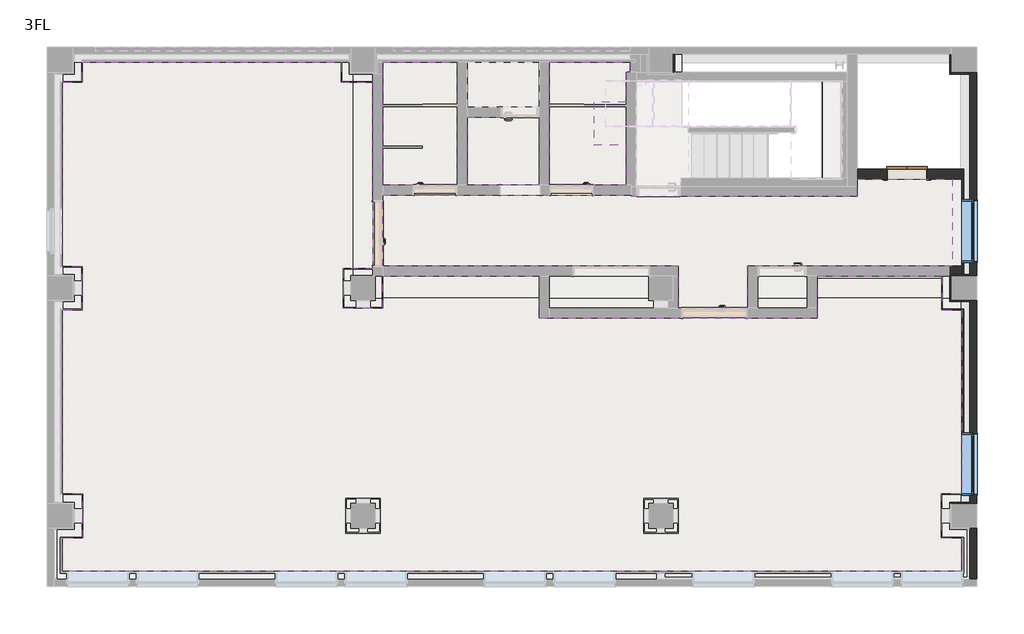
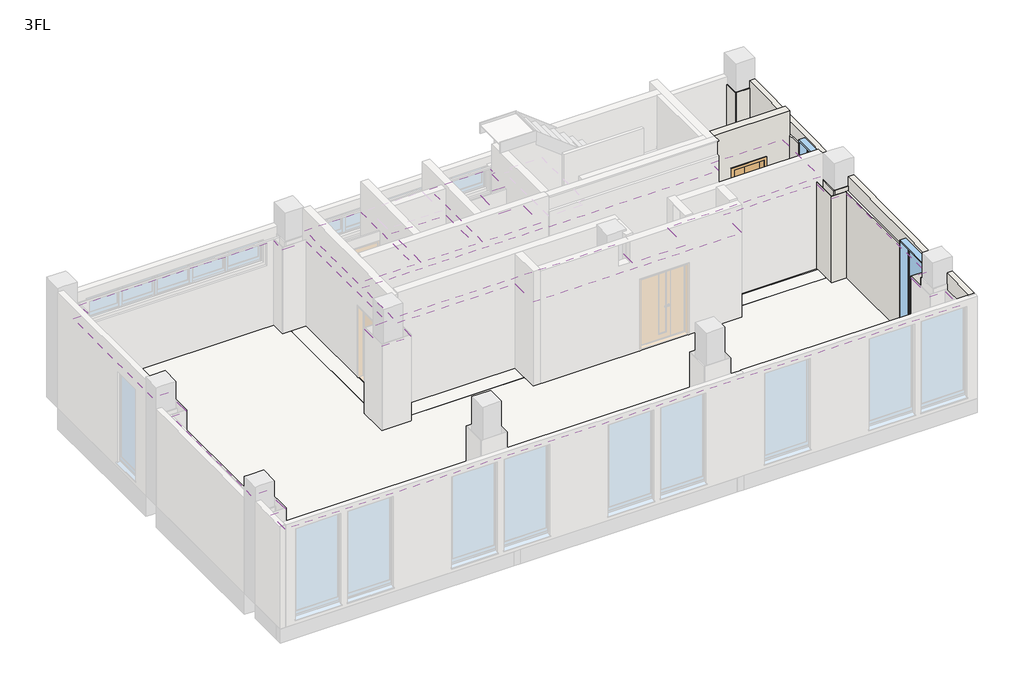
# One storey, part 3 of 4: 16 walls, 10 slabs, 6 coverings, 2 windows, 1 door.
"""IFC4 building model written with IfcOpenShell, lengths in millimetres."""

from ifc_helpers import new_model, si_unit, frame, origin, place, context, project, spatial, polyline, outline, extrude, faceted_brep, transform, mapped, element, save
from components import covering_536f3d13, elv_h2000xw800_aa5de070, window_02fdaeb4

model = new_model("IFC4")

# Units and contexts
model_context = context("Model", 3, world=origin())
ifc_project = project(units=[si_unit("LENGTHUNIT", "METRE", prefix="MILLI")], contexts=[model_context])

# Site, building, storey
site = spatial("IfcSite", under=ifc_project)
building = spatial("IfcBuilding", under=site)
storey = spatial("IfcBuildingStorey", under=building, Name="3FL", Elevation=6700.0)

# Coverings
placement = place(None, origin())
element("IfcCovering", 1, ObjectType="t=4mm", at=placement, inside=storey, context=model_context, shape_type="SweptSolid", body=[
    extrude(outline(polyline([(18147.5000006, -442.5001201), (18147.5000006, -1117.5000822), (32.4998768, -1117.5000822), (32.4998768, -442.4999706), (448.5, -442.4999706), (448.5, 442.4996399), (32.5, 442.4996399), (32.5, 4151.5), (438.5, 4151.5), (438.5, 5028.5), (32.4999974, 5028.5), (32.4999974, 8741.5), (438.5, 8741.5), (438.5, 9147.500003), (5651.5, 9147.500003), (5651.5, 8741.5), (6290.0, 8741.5), (6290.0, 4988.5), (5687.4999426, 4988.5), (5687.4999426, 4187.5000823), (6489.9999994, 4187.5000823), (6489.9999994, 4830.0), (9640.0, 4830.0), (9640.0, 3990.0), (15240.0, 3990.0), (15240.0, 4830.0), (17741.5, 4830.0), (17741.5, 4151.5), (18147.4999993, 4151.5), (18147.4999993, 442.499689), (17731.5010313, 442.499689), (17731.5010313, -442.5001201), (18147.5000006, -442.5001201)]), holes=[polyline([(6440.0, -350.0), (6440.0, 350.0), (5740.0, 350.0), (5740.0, -350.0), (6440.0, -350.0)]), polyline([(12438.5, -348.5), (12438.5, 348.5), (11741.5, 348.5), (11741.5, -348.5), (12438.5, -348.5)])]), frame((0.0, 0.0, 9100.0), z_axis=(0.0, 0.0, 1.0), x_axis=(1.0, 0.0, 0.0)), (0.0, 0.0, 1.0), 4.0),
])
element("IfcCovering", 2, ObjectType="t=4mm", at=placement, inside=storey, context=model_context, shape_type="SweptSolid", body=[
    extrude(outline(polyline([(6490.0, 6465.5), (11490.0, 6465.5), (11490.0, 6440.0), (16040.0, 6440.0), (16040.0, 6790.0), (17955.0, 6790.0), (17955.0, 5030.0), (13840.0, 5030.0), (13840.0, 4190.0), (12440.0, 4190.0), (12440.0, 5030.0), (6490.0, 5030.0), (6490.0, 6465.5)])), frame((0.0, 0.0, 9100.0), z_axis=(0.0, 0.0, 1.0), x_axis=(1.0, 0.0, 0.0)), (0.0, 0.0, 1.0), 4.0),
])
element("IfcCovering", 3, ObjectType="t=4mm", at=placement, inside=storey, context=model_context, shape_type="SweptSolid", body=[
    extrude(outline(polyline([(7990.0, 9147.500003), (7990.0, 6665.5), (6490.0, 6665.5), (6490.0, 9147.500003), (7990.0, 9147.500003)])), frame((0.0, 0.0, 9100.0), z_axis=(0.0, 0.0, 1.0), x_axis=(1.0, 0.0, 0.0)), (0.0, 0.0, 1.0), 4.0),
])
element("IfcCovering", 4, ObjectType="t=4mm", at=placement, inside=storey, context=model_context, shape_type="SweptSolid", body=[
    extrude(outline(polyline([(9640.0, 6665.5), (8190.0, 6665.5), (8190.0, 8040.0), (9640.0, 8040.0), (9640.0, 6665.5)])), frame((0.0, 0.0, 9100.0), z_axis=(0.0, 0.0, 1.0), x_axis=(1.0, 0.0, 0.0)), (0.0, 0.0, 1.0), 4.0),
])
element("IfcCovering", 5, ObjectType="t=4mm", at=placement, inside=storey, context=model_context, shape_type="SweptSolid", body=[
    extrude(outline(polyline([(11470.0, 9147.500003), (11470.0, 8947.5), (11390.0, 8947.5), (11390.0, 8342.5), (10732.5, 8342.5), (10732.5, 7482.5), (11390.0, 7482.5), (11390.0, 6665.5), (9840.0, 6665.5), (9840.0, 9147.500003), (11470.0, 9147.500003)])), frame((0.0, 0.0, 9100.0), z_axis=(0.0, 0.0, 1.0), x_axis=(1.0, 0.0, 0.0)), (0.0, 0.0, 1.0), 4.0),
])
covering_shape = covering_536f3d13(model_context)
element("IfcCovering", 6, ObjectType="天井 3 : 天井 1", at=placement, inside=storey, context=model_context, shape_type="MappedRepresentation", body=[
    mapped(covering_shape, transform((0.0, 0.0, 6685.7142857), x_axis=(1.0, 0.0, 0.0), y_axis=(0.0, 1.0, 0.0), z_axis=(0.0, 0.0, 1.0))),
])

# Door
elv_h2000xw800_shape = elv_h2000xw800_aa5de070(model_context)
element("IfcDoor", 7, ObjectType="D_EV_壁付 : ELV_H2000xW800", at=placement, inside=storey, context=model_context, shape_type="MappedRepresentation", body=[
    mapped(elv_h2000xw800_shape, transform((17145.4856443, 6890.0, 6700.0), x_axis=(1.0, 0.0, 0.0), y_axis=(0.0, 1.0, 0.0), z_axis=(0.0, 0.0, 1.0))),
])

# Slabs
element("IfcSlab", 8, ObjectType="OAフロアの上タイルカーペット", at=placement, inside=storey, context=model_context, shape_type="Brep", body=[
    faceted_brep([(438.5, 9147.500003, 6650.0), (5651.5, 9147.500003, 6650.0), (5651.5, 8741.5, 6650.0), (5890.0, 8741.5, 6650.0), (5890.0, 4988.5, 6650.0), (5687.4999426, 4988.5, 6650.0), (5687.4999426, 4187.5000823, 6650.0), (6489.9999994, 4187.5000823, 6650.0), (6489.9999994, 4390.0, 6650.0), (9640.0, 4390.0, 6650.0), (9640.0, 3990.0, 6650.0), (15240.0, 3990.0, 6650.0), (15240.0, 4390.0, 6650.0), (17741.5, 4390.0, 6650.0), (17741.5, 4151.5, 6650.0), (18147.4999993, 4151.5, 6650.0), (18147.4999993, 442.499689, 6650.0), (17731.5010313, 442.499689, 6650.0), (17731.5010313, -442.5001201, 6650.0), (18147.5000006, -442.5001201, 6650.0), (18147.5000006, -1117.5000822, 6650.0), (32.4999974, -1117.5000822, 6650.0), (32.4999974, -442.4999706, 6650.0), (448.5, -442.4999706, 6650.0), (448.5, 442.4996399, 6650.0), (32.4999974, 442.4996399, 6650.0), (32.4999974, 4151.5, 6650.0), (438.5, 4151.5, 6650.0), (438.5, 5028.5, 6650.0), (32.4999974, 5028.5, 6650.0), (32.4999974, 8741.5, 6650.0), (438.5, 8741.5, 6650.0), (5740.0, 350.0, 6650.0), (5740.0, -350.0, 6650.0), (6440.0, -350.0, 6650.0), (6440.0, 350.0, 6650.0), (11741.5, 348.5, 6650.0), (11741.5, -348.5, 6650.0), (12438.5, -348.5, 6650.0), (12438.5, 348.5, 6650.0), (5651.5, 9147.500003, 6700.0), (438.5, 9147.500003, 6700.0), (438.5, 8741.5, 6700.0), (32.4999974, 8741.5, 6700.0), (32.4999974, 5028.5, 6700.0), (438.5, 5028.5, 6700.0), (438.5, 4151.5, 6700.0), (32.4999974, 4151.5, 6700.0), (32.4999974, 442.4996399, 6700.0), (448.5, 442.4996399, 6700.0), (448.5, -442.4999706, 6700.0), (32.4999974, -442.4999706, 6700.0), (32.4999974, -1117.5000822, 6700.0), (18147.5000006, -1117.5000822, 6700.0), (18147.5000006, -442.5001201, 6700.0), (17731.5010313, -442.5001201, 6700.0), (17731.5010313, 442.499689, 6700.0), (18147.4999993, 442.499689, 6700.0), (18147.4999993, 4151.5, 6700.0), (17741.5, 4151.5, 6700.0), (17741.5, 4390.0, 6700.0), (15240.0, 4390.0, 6700.0), (15240.0, 3990.0, 6700.0), (9640.0, 3990.0, 6700.0), (9640.0, 4390.0, 6700.0), (6489.9999994, 4390.0, 6700.0), (6489.9999994, 4187.5000823, 6700.0), (5687.4999426, 4187.5000823, 6700.0), (5687.4999426, 4988.5, 6700.0), (5890.0, 4988.5, 6700.0), (5890.0, 8741.5, 6700.0), (5651.5, 8741.5, 6700.0), (5740.0, -350.0, 6700.0), (5740.0, 350.0, 6700.0), (6440.0, 350.0, 6700.0), (6440.0, -350.0, 6700.0), (11741.5, -348.5, 6700.0), (11741.5, 348.5, 6700.0), (12438.5, 348.5, 6700.0), (12438.5, -348.5, 6700.0), (5890.0, 8741.5, 6690.0), (5890.0, 4988.5, 6690.0), (6489.9999994, 4390.0, 6690.0), (9640.0, 4390.0, 6690.0), (15240.0, 4390.0, 6690.0), (17741.5, 4390.0, 6690.0)], [[[0, 1, 2, 3, 4, 5, 6, 7, 8, 9, 10, 11, 12, 13, 14, 15, 16, 17, 18, 19, 20, 21, 22, 23, 24, 25, 26, 27, 28, 29, 30, 31], [32, 33, 34, 35], [36, 37, 38, 39]], [[40, 41, 42, 43, 44, 45, 46, 47, 48, 49, 50, 51, 52, 53, 54, 55, 56, 57, 58, 59, 60, 61, 62, 63, 64, 65, 66, 67, 68, 69, 70, 71], [72, 73, 74, 75], [76, 77, 78, 79]], [[1, 0, 41, 40]], [[2, 1, 40, 71]], [[3, 2, 71, 70, 80]], [[4, 3, 80, 70, 69, 81]], [[5, 4, 81, 69, 68]], [[6, 5, 68, 67]], [[7, 6, 67, 66]], [[8, 7, 66, 65, 82]], [[9, 8, 82, 65, 64, 83]], [[10, 9, 83, 64, 63]], [[11, 10, 63, 62]], [[12, 11, 62, 61, 84]], [[13, 12, 84, 61, 60, 85]], [[21, 20, 53, 52]], [[30, 29, 44, 43]], [[16, 15, 58, 57]], [[22, 21, 52, 51]], [[23, 22, 51, 50]], [[24, 23, 50, 49]], [[25, 24, 49, 48]], [[26, 25, 48, 47]], [[27, 26, 47, 46]], [[28, 27, 46, 45]], [[29, 28, 45, 44]], [[31, 30, 43, 42]], [[0, 31, 42, 41]], [[14, 13, 85, 60, 59]], [[15, 14, 59, 58]], [[17, 16, 57, 56]], [[18, 17, 56, 55]], [[19, 18, 55, 54]], [[20, 19, 54, 53]], [[33, 32, 73, 72]], [[34, 33, 72, 75]], [[35, 34, 75, 74]], [[32, 35, 74, 73]], [[37, 36, 77, 76]], [[38, 37, 76, 79]], [[39, 38, 79, 78]], [[36, 39, 78, 77]]]),
])
element("IfcSlab", 9, ObjectType="タイルカーペット t=10mm", at=placement, inside=storey, context=model_context, shape_type="SweptSolid", body=[
    extrude(outline(polyline([(9640.0, 4390.0), (6489.9999994, 4390.0), (6489.9999994, 4830.0), (9640.0, 4830.0), (9640.0, 4390.0)])), frame((0.0, 0.0, 6690.0), z_axis=(0.0, 0.0, 1.0), x_axis=(1.0, 0.0, 0.0)), (0.0, 0.0, 1.0), 10.0),
    extrude(outline(polyline([(17741.5, 4390.0), (15240.0, 4390.0), (15240.0, 4782.5), (17741.5, 4782.5), (17741.5, 4390.0)])), frame((0.0, 0.0, 6690.0), z_axis=(0.0, 0.0, 1.0), x_axis=(1.0, 0.0, 0.0)), (0.0, 0.0, 1.0), 10.0),
])
element("IfcSlab", 10, ObjectType="ビニル床ビシート t=10mm", at=placement, inside=storey, context=model_context, shape_type="Brep", body=[
    faceted_brep([(13840.0, 5030.0, 6690.0), (13840.0, 4190.0, 6690.0), (12440.0, 4190.0, 6690.0), (12440.0, 5030.0, 6690.0), (6490.0, 5030.0, 6690.0), (6490.0, 6465.5, 6690.0), (9875.0, 6465.5, 6690.0), (10705.0, 6465.5, 6690.0), (11490.0, 6465.5, 6690.0), (11490.0, 6440.0, 6690.0), (12512.5, 6440.0, 6690.0), (16040.0, 6440.0, 6690.0), (16040.0, 6790.0, 6690.0), (18147.5, 6790.0, 6690.0), (18147.5, 5030.0, 6690.0), (13840.0, 4190.0, 6700.0), (13840.0, 5030.0, 6700.0), (18147.5, 5030.0, 6700.0), (18147.5, 6790.0, 6700.0), (16040.0, 6790.0, 6700.0), (16040.0, 6440.0, 6700.0), (12467.5, 6440.0, 6700.0), (11612.5, 6440.0, 6700.0), (11490.0, 6440.0, 6700.0), (11490.0, 6465.5, 6700.0), (10705.0, 6465.5, 6700.0), (9875.0, 6465.5, 6700.0), (6490.0, 6465.5, 6700.0), (6490.0, 5030.0, 6700.0), (12440.0, 5030.0, 6700.0), (12440.0, 4190.0, 6700.0)], [[[0, 1, 2, 3, 4, 5, 6, 7, 8, 9, 10, 11, 12, 13, 14]], [[15, 16, 17, 18, 19, 20, 21, 22, 23, 24, 25, 26, 27, 28, 29, 30]], [[1, 0, 16, 15]], [[2, 1, 15, 30]], [[3, 2, 30, 29]], [[4, 3, 29, 28]], [[5, 4, 28, 27]], [[5, 27, 26, 25, 24, 8, 7, 6]], [[19, 12, 11, 20]], [[13, 12, 19, 18]], [[14, 13, 18, 17]], [[0, 14, 17, 16]], [[9, 23, 22, 21, 20, 11, 10]], [[23, 9, 8, 24]]]),
])
element("IfcSlab", 11, ObjectType="ビニル床ビシート t=10mm", at=placement, inside=storey, context=model_context, shape_type="SweptSolid", body=[
    extrude(outline(polyline([(11390.0, 6665.5), (10705.0, 6665.5), (10705.0, 6465.5), (9875.0, 6465.5), (9875.0, 6675.5), (9840.0, 6675.5), (9840.0, 9130.0), (11470.0, 9130.0), (11470.0, 8947.5), (11390.0, 8947.5), (11390.0, 6665.5)])), frame((0.0, 0.0, 6690.0), z_axis=(0.0, 0.0, 1.0), x_axis=(1.0, 0.0, 0.0)), (0.0, 0.0, 1.0), 10.0),
])
element("IfcSlab", 12, ObjectType="ビニル床ビシート t=10mm", at=placement, inside=storey, context=model_context, shape_type="Brep", body=[
    faceted_brep([(9640.0, 6665.5, 6690.0), (8190.0, 6665.5, 6690.0), (8190.0, 8040.0, 6690.0), (9640.0, 8040.0, 6690.0), (8190.0, 6665.5, 6700.0), (9640.0, 6665.5, 6700.0), (9640.0, 8040.0, 6700.0), (9617.5, 8040.0, 6700.0), (8862.5, 8040.0, 6700.0), (8190.0, 8040.0, 6700.0)], [[[0, 1, 2, 3]], [[4, 5, 6, 7, 8, 9]], [[1, 0, 5, 4]], [[1, 4, 9, 2]], [[5, 0, 3, 6]], [[3, 2, 9, 8, 7, 6]]]),
    faceted_brep([(8190.0, 9130.0, 6690.0), (9640.0, 9130.0, 6690.0), (9640.0, 8240.0, 6690.0), (8190.0, 8240.0, 6690.0), (9640.0, 9130.0, 6700.0), (8190.0, 9130.0, 6700.0), (8190.0, 8240.0, 6700.0), (8862.5, 8240.0, 6700.0), (9617.5, 8240.0, 6700.0), (9640.0, 8240.0, 6700.0)], [[[0, 1, 2, 3]], [[4, 5, 6, 7, 8, 9]], [[5, 0, 3, 6]], [[1, 0, 5, 4]], [[1, 4, 9, 2]], [[3, 2, 9, 8, 7, 6]]]),
])
element("IfcSlab", 13, ObjectType="ビニル床ビシート t=10mm", at=placement, inside=storey, context=model_context, shape_type="SweptSolid", body=[
    extrude(outline(polyline([(7990.0, 6665.5), (6490.0, 6665.5), (6490.0, 9130.0), (7990.0, 9130.0), (7990.0, 6665.5)])), frame((0.0, 0.0, 6690.0), z_axis=(0.0, 0.0, 1.0), x_axis=(1.0, 0.0, 0.0)), (0.0, 0.0, 1.0), 10.0),
])
element("IfcSlab", 14, ObjectType="タイルカーペット t=10mm", at=placement, inside=storey, context=model_context, shape_type="SweptSolid", body=[
    extrude(outline(polyline([(5890.0, 4988.5), (5890.0, 8741.5), (6290.0, 8741.5), (6290.0, 4988.5), (5890.0, 4988.5)])), frame((0.0, 0.0, 6690.0), z_axis=(0.0, 0.0, 1.0), x_axis=(1.0, 0.0, 0.0)), (0.0, 0.0, 1.0), 10.0),
])
element("IfcSlab", 15, ObjectType="DS1t150", at=placement, inside=storey, context=model_context, shape_type="SweptSolid", body=[
    extrude(outline(polyline([(-70.0, -1275.0), (-70.0, -250.0), (250.0, -250.0), (250.0, -150.0), (5840.0, -150.0), (5840.0, -250.0), (6000.0, -250.0), (6000.0, -1275.0), (-70.0, -1275.0)])), frame((0.0, 0.0, 6400.0), z_axis=(0.0, 0.0, 1.0), x_axis=(1.0, 0.0, 0.0)), (0.0, 0.0, 1.0), 150.0),
    extrude(outline(polyline([(12340.0, -150.0), (17930.0, -150.0), (17930.0, -250.0), (18250.0, -250.0), (18250.0, -1230.0), (12180.0, -1230.0), (12180.0, -250.0), (12340.0, -250.0), (12340.0, -150.0)])), frame((0.0, 0.0, 6400.0), z_axis=(0.0, 0.0, 1.0), x_axis=(1.0, 0.0, 0.0)), (0.0, 0.0, 1.0), 150.0),
    extrude(outline(polyline([(12000.0, -1275.0), (6180.0, -1275.0), (6180.0, -250.0), (6340.0, -250.0), (6340.0, -150.0), (11840.0, -150.0), (11840.0, -250.0), (12000.0, -250.0), (12000.0, -1275.0)])), frame((0.0, 0.0, 6400.0), z_axis=(0.0, 0.0, 1.0), x_axis=(1.0, 0.0, 0.0)), (0.0, 0.0, 1.0), 150.0),
])
element("IfcSlab", 16, ObjectType="DS1t150", at=placement, inside=storey, context=model_context, shape_type="Brep", body=[
    faceted_brep([(50.0, 4840.0, 6400.0), (50.0, 8930.0, 6400.0), (250.0, 8930.0, 6400.0), (250.0, 9130.0, 6400.0), (5840.0, 9130.0, 6400.0), (5840.0, 8930.0, 6400.0), (5940.0, 8930.0, 6400.0), (5940.0, 4840.0000077, 6400.0), (5840.0, 4840.0000077, 6400.0), (5840.0, 4740.0, 6400.0), (250.0, 4740.0, 6400.0), (250.0, 4840.0, 6400.0), (50.0, 8930.0, 6550.0), (50.0, 4840.0, 6550.0), (250.0, 4840.0, 6550.0), (250.0, 4740.0, 6550.0), (5840.0, 4740.0, 6550.0), (5840.0, 4840.0000077, 6550.0), (5940.0, 4840.0000077, 6550.0), (5940.0, 8930.0, 6550.0), (5890.0, 8930.0, 6550.0), (5840.0, 8930.0, 6550.0), (5840.0, 9130.0, 6550.0), (250.0, 9130.0, 6550.0), (250.0, 8930.0, 6550.0)], [[[0, 1, 2, 3, 4, 5, 6, 7, 8, 9, 10, 11]], [[12, 13, 14, 15, 16, 17, 18, 19, 20, 21, 22, 23, 24]], [[1, 0, 13, 12]], [[4, 3, 23, 22]], [[7, 6, 19, 18]], [[10, 9, 16, 15]], [[2, 1, 12, 24]], [[3, 2, 24, 23]], [[5, 4, 22, 21]], [[6, 5, 21, 20, 19]], [[8, 7, 18, 17]], [[9, 8, 17, 16]], [[11, 10, 15, 14]], [[0, 11, 14, 13]]]),
    faceted_brep([(5840.0, 4440.0, 6400.0), (5840.0, 4339.9999923, 6400.0), (5940.0, 4339.9999923, 6400.0), (5940.0, 250.0, 6400.0), (5840.0, 250.0, 6400.0), (5840.0, 150.0, 6400.0), (250.0, 150.0, 6400.0), (250.0, 250.0, 6400.0), (50.0, 250.0, 6400.0), (50.0, 4340.0, 6400.0), (250.0, 4340.0, 6400.0), (250.0, 4440.0, 6400.0), (5840.0, 4339.9999923, 6550.0), (5840.0, 4440.0, 6550.0), (250.0, 4440.0, 6550.0), (250.0, 4340.0, 6550.0), (50.0, 4340.0, 6550.0), (50.0, 250.0, 6550.0), (250.0, 250.0, 6550.0), (250.0, 150.0, 6550.0), (5840.0, 150.0, 6550.0), (5840.0, 250.0, 6550.0), (5940.0, 250.0, 6550.0), (5940.0, 4339.9999923, 6550.0)], [[[0, 1, 2, 3, 4, 5, 6, 7, 8, 9, 10, 11]], [[12, 13, 14, 15, 16, 17, 18, 19, 20, 21, 22, 23]], [[1, 0, 13, 12]], [[2, 1, 12, 23]], [[3, 2, 23, 22]], [[6, 5, 20, 19]], [[9, 8, 17, 16]], [[0, 11, 14, 13]], [[4, 3, 22, 21]], [[5, 4, 21, 20]], [[7, 6, 19, 18]], [[8, 7, 18, 17]], [[10, 9, 16, 15]], [[11, 10, 15, 14]]]),
    faceted_brep([(11840.0, 150.0, 6400.0), (6340.0, 150.0, 6400.0), (6340.0, 250.0, 6400.0), (6240.0, 250.0, 6400.0), (6240.0, 4339.9999923, 6400.0), (6340.0, 4339.9999923, 6400.0), (6340.0, 4440.0, 6400.0), (9640.0, 4440.0, 6400.0), (9840.0, 4440.0, 6400.0), (11840.0, 4440.0, 6400.0), (11840.0, 4340.0, 6400.0), (11940.0, 4340.0, 6400.0), (11940.0, 4190.0, 6400.0), (11940.0, 3990.0, 6400.0), (11940.0, 250.0, 6400.0), (11840.0, 250.0, 6400.0), (6340.0, 150.0, 6550.0), (11840.0, 150.0, 6550.0), (11840.0, 250.0, 6550.0), (11940.0, 250.0, 6550.0), (11940.0, 4340.0, 6550.0), (11840.0, 4340.0, 6550.0), (11840.0, 4390.0, 6550.0), (11840.0, 4440.0, 6550.0), (6340.0, 4440.0, 6550.0), (6340.0, 4390.0, 6550.0), (6340.0, 4339.9999923, 6550.0), (6240.0, 4339.9999923, 6550.0), (6240.0, 250.0, 6550.0), (6340.0, 250.0, 6550.0)], [[[0, 1, 2, 3, 4, 5, 6, 7, 8, 9, 10, 11, 12, 13, 14, 15]], [[16, 17, 18, 19, 20, 21, 22, 23, 24, 25, 26, 27, 28, 29]], [[1, 0, 17, 16]], [[4, 3, 28, 27]], [[9, 8, 7, 6, 24, 23]], [[14, 13, 12, 11, 20, 19]], [[15, 14, 19, 18]], [[0, 15, 18, 17]], [[2, 1, 16, 29]], [[3, 2, 29, 28]], [[5, 4, 27, 26]], [[6, 5, 26, 25, 24]], [[10, 9, 23, 22, 21]], [[11, 10, 21, 20]]]),
    faceted_brep([(12340.0, 4440.0, 6400.0), (12440.0, 4440.0, 6400.0), (13840.0, 4440.0, 6400.0), (14040.0, 4440.0, 6400.0), (15040.0, 4440.0, 6400.0), (15240.0, 4440.0, 6400.0), (17930.0, 4440.0, 6400.0), (17930.0, 4340.0, 6400.0), (18125.0, 4340.0, 6400.0), (18125.0, 250.0, 6400.0), (17930.0, 250.0, 6400.0), (17930.0, 150.0, 6400.0), (12340.0, 150.0, 6400.0), (12340.0, 250.0, 6400.0), (12240.0, 250.0, 6400.0), (12240.0, 3990.0, 6400.0), (12240.0, 4190.0, 6400.0), (12240.0, 4340.0, 6400.0), (12340.0, 4340.0, 6400.0), (17930.0, 4440.0, 6550.0), (12340.0, 4440.0, 6550.0), (12340.0, 4390.0, 6550.0), (12340.0, 4340.0, 6550.0), (12240.0, 4340.0, 6550.0), (12240.0, 250.0, 6550.0), (12340.0, 250.0, 6550.0), (12340.0, 150.0, 6550.0), (17930.0, 150.0, 6550.0), (17930.0, 250.0, 6550.0), (18125.0, 250.0, 6550.0), (18125.0, 4340.0, 6550.0), (17930.0, 4340.0, 6550.0), (17930.0, 4390.0, 6550.0)], [[[0, 1, 2, 3, 4, 5, 6, 7, 8, 9, 10, 11, 12, 13, 14, 15, 16, 17, 18]], [[19, 20, 21, 22, 23, 24, 25, 26, 27, 28, 29, 30, 31, 32]], [[6, 5, 4, 3, 2, 1, 0, 20, 19]], [[9, 8, 30, 29]], [[12, 11, 27, 26]], [[17, 16, 15, 14, 24, 23]], [[13, 12, 26, 25]], [[14, 13, 25, 24]], [[18, 17, 23, 22]], [[0, 18, 22, 21, 20]], [[7, 6, 19, 32, 31]], [[8, 7, 31, 30]], [[10, 9, 29, 28]], [[11, 10, 28, 27]]]),
])
element("IfcSlab", 17, ObjectType="DS1t150", at=placement, inside=storey, context=model_context, shape_type="Brep", body=[
    faceted_brep([(12364.9999035, 9305.0, 6540.0), (12512.5, 9305.0, 6540.0), (12512.5, 7716.0, 6540.0), (12732.5, 7716.0, 6540.0), (12732.5, 6804.5, 6540.0), (12512.5, 6804.5, 6540.0), (12512.5, 6640.0, 6540.0), (12512.5, 6440.0, 6540.0), (16040.0, 6440.0, 6540.0), (16040.0, 6990.0, 6540.0), (18130.0, 6990.0, 6540.0), (18130.0, 4840.0, 6540.0), (17930.0, 4840.0, 6540.0), (17930.0, 4740.0, 6540.0), (12340.0, 4740.0, 6540.0), (12340.0, 4830.0, 6540.0), (12340.0, 4840.0, 6540.0), (12240.0, 4840.0, 6540.0), (12240.0, 6440.0, 6540.0), (12240.0, 6640.0, 6540.0), (12240.0, 8930.0, 6540.0), (12364.9999035, 8930.0, 6540.0), (11840.0, 4740.0, 6540.0), (6340.0, 4740.0, 6540.0), (6340.0, 4830.0, 6540.0), (6340.0, 4840.0, 6540.0), (6290.0, 4840.0, 6540.0), (6240.0, 4840.0, 6540.0), (6240.0, 8930.0, 6540.0), (6340.0, 8930.0, 6540.0), (6340.0, 9130.0, 6540.0), (7990.0, 9130.0, 6540.0), (8190.0, 9130.0, 6540.0), (9640.0, 9130.0, 6540.0), (9840.0, 9130.0, 6540.0), (11840.0, 9130.0, 6540.0), (11840.0, 8930.0, 6540.0), (11940.0, 8930.0, 6540.0), (11940.0, 6640.0, 6540.0), (11940.0, 6440.0, 6540.0), (11940.0, 4840.0, 6540.0), (11840.0, 4840.0, 6540.0), (11840.0, 4830.0, 6540.0), (12512.5, 9305.0, 6690.0), (12364.9999035, 9305.0, 6690.0), (12364.9999035, 8947.5, 6690.0), (12364.9999035, 8930.0, 6690.0), (12360.0, 8930.0, 6690.0), (11840.0, 8930.0, 6690.0), (11840.0, 8947.5, 6690.0), (11840.0, 9130.0, 6690.0), (11814.9999426, 9130.0, 6690.0), (11670.0, 9130.0, 6690.0), (11470.0, 9130.0, 6690.0), (9840.0, 9130.0, 6690.0), (9640.0, 9130.0, 6690.0), (8190.0, 9130.0, 6690.0), (7990.0, 9130.0, 6690.0), (6490.0, 9130.0, 6690.0), (6365.0, 9130.0, 6690.0), (6340.0, 9130.0, 6690.0), (6340.0, 8930.0, 6690.0), (5890.0, 8930.0, 6690.0), (5890.0, 8905.0000823, 6690.0), (5890.0, 8754.0, 6690.0), (5890.0, 8741.5, 6690.0), (5890.0, 4988.5, 6690.0), (5890.0, 4976.0, 6690.0), (5890.0, 4840.0, 6690.0), (6290.0, 4840.0, 6690.0), (6340.0, 4840.0, 6690.0), (6340.0, 4830.0, 6690.0), (6340.0, 4390.0, 6690.0), (6477.4999994, 4390.0, 6690.0), (6489.9999994, 4390.0, 6690.0), (9640.0, 4390.0, 6690.0), (9840.0, 4390.0, 6690.0), (11840.0, 4390.0, 6690.0), (11840.0, 4830.0, 6690.0), (11840.0, 4840.0, 6690.0), (12340.0, 4840.0, 6690.0), (12340.0, 4830.0, 6690.0), (12340.0, 4390.0, 6690.0), (12440.0, 4390.0, 6690.0), (13840.0, 4390.0, 6690.0), (14040.0, 4390.0, 6690.0), (15040.0, 4390.0, 6690.0), (15240.0, 4390.0, 6690.0), (17741.5, 4390.0, 6690.0), (17754.0, 4390.0, 6690.0), (17905.0000284, 4390.0, 6690.0), (17930.0, 4390.0, 6690.0), (17930.0, 4840.0, 6690.0), (18130.0, 4840.0, 6690.0), (18130.0, 4865.0, 6690.0), (18130.0, 5030.0, 6690.0), (18130.0, 6790.0, 6690.0), (18130.0, 6990.0, 6690.0), (16040.0, 6990.0, 6690.0), (16040.0, 6790.0, 6690.0), (16040.0, 6440.0, 6690.0), (12512.5, 6440.0, 6690.0), (12512.5, 6640.0, 6690.0), (12512.5, 6804.5, 6690.0), (12732.5, 6804.5, 6690.0), (12732.5, 7716.0, 6690.0), (12512.5, 7716.0, 6690.0), (12512.5, 8747.5, 6690.0), (12512.5, 8947.5, 6690.0), (12364.9999035, 9305.0, 6550.0), (12512.5, 6440.0, 6550.0), (16040.0, 6440.0, 6550.0), (18130.0, 6990.0, 6550.0), (12340.0, 4390.0, 6550.0), (12440.0, 4390.0, 6550.0), (13840.0, 4390.0, 6550.0), (14040.0, 4390.0, 6550.0), (15040.0, 4390.0, 6550.0), (15240.0, 4390.0, 6550.0), (17741.5, 4390.0, 6550.0), (17754.0, 4390.0, 6550.0), (17905.0000284, 4390.0, 6550.0), (17930.0, 4390.0, 6550.0), (5890.0, 8930.0, 6550.0), (5890.0, 8905.0000823, 6550.0), (5890.0, 8754.0, 6550.0), (5890.0, 8741.5, 6550.0), (5890.0, 4988.5, 6550.0), (5890.0, 4976.0, 6550.0), (5890.0, 4840.0, 6550.0), (17929.9999994, 4740.0, 6550.0), (12340.0000006, 4740.0, 6550.0), (17930.0, 4440.0, 6550.0), (12340.0, 4440.0, 6550.0), (6340.0000006, 4740.0, 6550.0), (11840.0, 4740.0, 6550.0), (11840.0, 4440.0, 6550.0), (11840.0, 4390.0, 6550.0), (9840.0, 4390.0, 6550.0), (9640.0, 4390.0, 6550.0), (6489.9999994, 4390.0, 6550.0), (6477.4999994, 4390.0, 6550.0), (6340.0, 4390.0, 6550.0), (6340.0, 4440.0, 6550.0), (5940.0, 8930.0, 6550.0), (6240.0, 8930.0, 6550.0), (6240.0, 4840.0000006, 6550.0), (11940.0, 8929.9999994, 6550.0), (11940.0, 4840.0000006, 6550.0), (12240.0, 8930.0, 6550.0), (12240.0, 4840.0000006, 6550.0), (6340.0, 8930.0, 6550.0), (6340.0, 9130.0, 6550.0), (11840.0, 9130.0, 6550.0), (11840.0, 8930.0, 6550.0), (12364.9999035, 8930.0, 6550.0), (17930.0, 4840.0, 6550.0), (12340.0, 4840.0, 6550.0), (11840.0, 4840.0, 6550.0), (6340.0, 4840.0, 6550.0)], [[[0, 1, 2, 3, 4, 5, 6, 7, 8, 9, 10, 11, 12, 13, 14, 15, 16, 17, 18, 19, 20, 21]], [[22, 23, 24, 25, 26, 27, 28, 29, 30, 31, 32, 33, 34, 35, 36, 37, 38, 39, 40, 41, 42]], [[43, 44, 45, 46, 47, 48, 49, 50, 51, 52, 53, 54, 55, 56, 57, 58, 59, 60, 61, 62, 63, 64, 65, 66, 67, 68, 69, 70, 71, 72, 73, 74, 75, 76, 77, 78, 79, 80, 81, 82, 83, 84, 85, 86, 87, 88, 89, 90, 91, 92, 93, 94, 95, 96, 97, 98, 99, 100, 101, 102, 103, 104, 105, 106, 107, 108]], [[1, 0, 109, 44, 43]], [[7, 6, 5, 103, 102, 101, 110]], [[8, 7, 110, 101, 100, 111]], [[9, 8, 111, 100, 99, 98]], [[10, 9, 98, 97, 112]], [[11, 10, 112, 97, 96, 95, 94, 93]], [[91, 90, 89, 88, 87, 86, 85, 84, 83, 82, 113, 114, 115, 116, 117, 118, 119, 120, 121, 122]], [[68, 67, 66, 65, 64, 63, 62, 123, 124, 125, 126, 127, 128, 129]], [[130, 131, 14, 13]], [[131, 130, 132, 122, 121, 120, 119, 118, 117, 116, 115, 114, 113, 133]], [[134, 135, 136, 137, 138, 139, 140, 141, 142, 143]], [[129, 128, 127, 126, 125, 124, 123, 144, 145, 146]], [[135, 134, 23, 22]], [[146, 145, 28, 27]], [[147, 148, 40, 39, 38, 37]], [[148, 147, 149, 150]], [[150, 149, 20, 19, 18, 17]], [[2, 1, 43, 108, 107, 106]], [[3, 2, 106, 105]], [[4, 3, 105, 104]], [[5, 4, 104, 103]], [[62, 61, 151, 29, 28, 145, 144, 123]], [[30, 29, 151, 61, 60, 152]], [[35, 34, 33, 32, 31, 30, 152, 60, 59, 58, 57, 56, 55, 54, 53, 52, 51, 50, 153]], [[36, 35, 153, 50, 49, 48, 154]], [[48, 47, 46, 155, 21, 20, 149, 147, 37, 36, 154]], [[0, 21, 155, 46, 45, 44, 109]], [[12, 11, 93, 92, 156]], [[92, 91, 122, 132, 130, 13, 12, 156]], [[82, 81, 80, 157, 16, 15, 14, 131, 133, 113]], [[80, 79, 158, 41, 40, 148, 150, 17, 16, 157]], [[79, 78, 77, 137, 136, 135, 22, 42, 41, 158]], [[77, 76, 75, 74, 73, 72, 142, 141, 140, 139, 138, 137]], [[72, 71, 70, 159, 25, 24, 23, 134, 143, 142]], [[70, 69, 68, 129, 146, 27, 26, 25, 159]]]),
])

# Walls
element("IfcWall", 18, ObjectType="•RC30+12.5", at=placement, inside=storey, context=model_context, shape_type="Brep", body=[
    faceted_brep([(18189.9999993, 429.999689, 6550.0), (18189.9999993, 4164.0, 6550.0), (18189.9999993, 4164.0, 9150.0), (18189.9999993, 1670.0, 9150.0), (18189.9999993, 1670.0, 6745.0), (18189.9999993, 429.999689, 6745.0), (18147.4999993, 4164.0, 6550.0), (18147.4999993, 4151.5, 6550.0), (18147.4999993, 442.499689, 6550.0), (18147.4999993, 429.999689, 6550.0), (18147.4999993, 429.999689, 6745.0), (18147.4999993, 1670.0, 6745.0), (18147.4999993, 1670.0, 9150.0), (18147.4999993, 4151.5, 9150.0), (18147.4999993, 4164.0, 9150.0)], [[[0, 1, 2, 3, 4, 5]], [[6, 7, 8, 9, 10, 11, 12, 13, 14]], [[1, 0, 9, 8, 7, 6]], [[2, 14, 13, 12, 3]], [[2, 1, 6, 14]], [[4, 11, 10, 5]], [[11, 4, 3, 12]], [[9, 0, 5, 10]]]),
])
element("IfcWall", 19, ObjectType="•RC30+12.5", at=placement, inside=storey, context=model_context, shape_type="Brep", body=[
    faceted_brep([(18190.0, 4865.0, 6550.0), (18190.0, 6990.0, 6550.0), (18190.0, 6990.0, 9150.0), (18190.0, 6400.0, 9150.0), (18190.0, 6400.0, 6745.0), (18190.0, 5080.0, 6745.0), (18190.0, 5080.0, 9150.0), (18190.0, 4865.0, 9150.0), (18147.5, 6990.0, 6550.0), (18147.5, 6790.0, 6550.0), (18147.5, 5030.0, 6550.0), (18147.5, 4865.0, 6550.0), (18147.5, 4865.0, 9150.0), (18147.5, 5080.0, 9150.0), (18147.5, 5080.0, 6745.0), (18147.5, 6400.0, 6745.0), (18147.5, 6400.0, 9150.0), (18147.5, 6990.0, 9150.0)], [[[0, 1, 2, 3, 4, 5, 6, 7]], [[8, 9, 10, 11, 12, 13, 14, 15, 16, 17]], [[1, 0, 11, 10, 9, 8]], [[12, 7, 6, 13]], [[2, 17, 16, 3]], [[0, 7, 12, 11]], [[2, 1, 8, 17]], [[4, 15, 14, 5]], [[5, 14, 13, 6]], [[15, 4, 3, 16]]]),
])
element("IfcWall", 20, ObjectType="•t=25mm", at=placement, inside=storey, context=model_context, shape_type="Brep", body=[
    faceted_brep([(12364.9999035, 8930.0000823, 6550.0), (12364.9999035, 9305.0, 6550.0), (12364.9999035, 9305.0, 6690.0), (12364.9999035, 9305.0, 9150.0), (12364.9999035, 8930.0000823, 9150.0), (12364.9999035, 8930.0000823, 6690.0), (12339.9999035, 9305.0, 6550.0), (12339.9999035, 8930.0000823, 6550.0), (12339.9999035, 8930.0000823, 6690.0), (12339.9999035, 8930.0000823, 9150.0), (12339.9999035, 9305.0, 9150.0), (12360.0, 9305.0, 6550.0)], [[[0, 1, 2, 3, 4, 5]], [[6, 7, 8, 9, 10]], [[1, 0, 7, 6, 11]], [[4, 3, 10, 9]], [[4, 9, 8, 7, 0, 5]], [[1, 11, 6, 10, 3, 2]]]),
])
element("IfcWall", 21, ObjectType="•t=25mm", at=placement, inside=storey, context=model_context, shape_type="Brep", body=[
    faceted_brep([(17905.0000284, 9305.0, 6550.0), (17905.0000284, 8905.0000773, 6550.0), (17905.0000284, 8905.0000773, 9150.0), (17905.0000284, 9305.0, 9150.0), (17930.0000284, 9305.0, 6550.0), (17930.0000284, 9305.0, 9150.0), (17930.0000284, 8930.0000773, 9150.0), (17930.0000284, 8905.0000773, 9150.0), (17930.0000284, 8905.0000773, 6550.0), (17930.0000284, 8930.0000773, 6550.0)], [[[0, 1, 2, 3]], [[4, 5, 6, 7, 8, 9]], [[1, 0, 4, 9, 8]], [[3, 2, 7, 6, 5]], [[0, 3, 5, 4]], [[2, 1, 8, 7]]]),
])
element("IfcWall", 22, ObjectType="•t=25mm", at=placement, inside=storey, context=model_context, shape_type="SweptSolid", body=[
    extrude(outline(polyline([(18305.0, 8905.0000773), (17930.0000284, 8905.0000773), (17930.0000284, 8930.0000773), (18305.0, 8930.0000773), (18305.0, 8905.0000773)])), frame((0.0, 0.0, 6550.0), z_axis=(0.0, 0.0, 1.0), x_axis=(1.0, 0.0, 0.0)), (0.0, 0.0, 1.0), 2600.0),
])
element("IfcWall", 23, ObjectType="•t=25mm", at=placement, inside=storey, context=model_context, shape_type="Brep", body=[
    faceted_brep([(17905.0000284, 4864.9999832, 9150.0), (18305.0, 4864.9999832, 9150.0), (18305.0, 4864.9999832, 6550.0), (18130.0, 4864.9999832, 6550.0), (18130.0, 4864.9999832, 6690.0), (17905.0000284, 4864.9999832, 6690.0), (18305.0, 4839.9999832, 9150.0), (17930.0000284, 4839.9999832, 9150.0), (17905.0000284, 4839.9999832, 9150.0), (17905.0000284, 4839.9999832, 6690.0), (17930.0, 4839.9999832, 6690.0), (18130.0, 4839.9999832, 6690.0), (18130.0, 4839.9999832, 6550.0), (18305.0, 4839.9999832, 6550.0)], [[[0, 1, 2, 3, 4, 5]], [[6, 7, 8, 9, 10, 11, 12, 13]], [[2, 13, 12, 3]], [[1, 0, 8, 7, 6]], [[8, 0, 5, 9]], [[4, 11, 10, 9, 5]], [[11, 4, 3, 12]], [[2, 1, 6, 13]]]),
])
element("IfcWall", 24, ObjectType="•t=25mm", at=placement, inside=storey, context=model_context, shape_type="Brep", body=[
    faceted_brep([(17905.0000284, 4315.0000178, 9150.0), (17905.0000284, 4839.9999832, 9150.0), (17905.0000284, 4839.9999832, 6690.0), (17905.0000284, 4390.0, 6690.0), (17905.0000284, 4390.0, 6550.0), (17905.0000284, 4315.0000178, 6550.0), (17930.0000284, 4839.9999832, 9150.0), (17930.0000284, 4340.0000178, 9150.0), (17930.0000284, 4315.0000178, 9150.0), (17930.0000284, 4315.0000178, 6550.0), (17930.0000284, 4340.0000178, 6550.0), (17930.0000284, 4390.0, 6550.0), (17930.0000284, 4390.0, 6690.0), (17930.0000284, 4839.9999832, 6690.0)], [[[0, 1, 2, 3, 4, 5]], [[6, 7, 8, 9, 10, 11, 12, 13]], [[9, 5, 4, 11, 10]], [[1, 0, 8, 7, 6]], [[1, 6, 13, 2]], [[0, 5, 9, 8]], [[12, 3, 2, 13]], [[3, 12, 11, 4]]]),
])
element("IfcWall", 25, ObjectType="•t=25mm", at=placement, inside=storey, context=model_context, shape_type="SweptSolid", body=[
    extrude(outline(polyline([(18305.0, 4315.0000178), (17930.0000284, 4315.0000178), (17930.0000284, 4340.0000178), (18305.0, 4340.0000178), (18305.0, 4315.0000178)])), frame((0.0, 0.0, 6550.0), z_axis=(0.0, 0.0, 1.0), x_axis=(1.0, 0.0, 0.0)), (0.0, 0.0, 1.0), 2600.0),
])
element("IfcWall", 26, ObjectType="•t=25mm", at=placement, inside=storey, context=model_context, shape_type="Brep", body=[
    faceted_brep([(18305.0, 274.9999009, 6550.0), (17904.999971, 274.9999009, 6550.0), (17904.999971, 274.9999009, 9150.0), (18305.0, 274.9999009, 9150.0), (18305.0, 249.9999009, 6550.0), (18305.0, 249.9999009, 9150.0), (17929.999971, 249.9999009, 9150.0), (17904.999971, 249.9999009, 9150.0), (17904.999971, 249.9999009, 6550.0), (17929.999971, 249.9999009, 6550.0)], [[[0, 1, 2, 3]], [[4, 5, 6, 7, 8, 9]], [[1, 0, 4, 9, 8]], [[3, 2, 7, 6, 5]], [[2, 1, 8, 7]], [[0, 3, 5, 4]]]),
])
element("IfcWall", 27, ObjectType="•PB12.5", at=placement, inside=storey, context=model_context, shape_type="Brep", body=[
    faceted_brep([(18147.4999993, 442.499689, 6550.0), (17731.5010313, 442.499689, 6550.0), (17731.5010313, 442.499689, 9150.0), (18147.4999993, 442.499689, 9150.0), (18147.4999993, 429.999689, 6550.0), (18147.4999993, 429.999689, 6745.0), (18147.4999993, 429.999689, 9150.0), (17744.0010313, 429.999689, 9150.0), (17731.5010313, 429.999689, 9150.0), (17731.5010313, 429.999689, 6550.0), (17744.0010313, 429.999689, 6550.0)], [[[0, 1, 2, 3]], [[4, 5, 6, 7, 8, 9, 10]], [[1, 0, 4, 10, 9]], [[3, 2, 8, 7, 6]], [[0, 3, 6, 5, 4]], [[2, 1, 9, 8]]]),
])
element("IfcWall", 28, ObjectType="•PB12.5", at=placement, inside=storey, context=model_context, shape_type="Brep", body=[
    faceted_brep([(18147.4999993, 4164.0, 6550.0), (17754.0, 4164.0, 6550.0), (17741.5, 4164.0, 6550.0), (17741.5, 4164.0, 9150.0), (17754.0, 4164.0, 9150.0), (18147.4999993, 4164.0, 9150.0), (18147.4999993, 4151.5, 6550.0), (18147.4999993, 4151.5, 9150.0), (17741.5, 4151.5, 9150.0), (17741.5, 4151.5, 6550.0)], [[[0, 1, 2, 3, 4, 5]], [[6, 7, 8, 9]], [[2, 1, 0, 6, 9]], [[5, 4, 3, 8, 7]], [[0, 5, 7, 6]], [[3, 2, 9, 8]]]),
])
element("IfcWall", 29, ObjectType="•PB12.5", at=placement, inside=storey, context=model_context, shape_type="SweptSolid", body=[
    extrude(outline(polyline([(4164.0, 9150.0), (4830.0, 9150.0), (4830.0, 6690.0), (4390.0, 6690.0), (4390.0, 6550.0), (4164.0, 6550.0), (4164.0, 9150.0)])), frame((17741.5, 0.0, 0.0), z_axis=(1.0, 0.0, 0.0), x_axis=(0.0, 1.0, 0.0)), (0.0, 0.0, 1.0), 12.5),
])
element("IfcWall", 30, ObjectType="•RC165", at=placement, inside=storey, context=model_context, shape_type="Brep", body=[
    faceted_brep([(18147.5, 4865.0, 9200.0), (17905.0000284, 4865.0, 9200.0), (17905.0000284, 4865.0, 6690.0), (18130.0, 4865.0, 6690.0), (18130.0, 4865.0, 6550.0), (18147.5, 4865.0, 6550.0), (18147.5, 4865.0, 9150.0), (17905.0000284, 5030.0, 9200.0), (18147.5, 5030.0, 9200.0), (18147.5, 5030.0, 6550.0), (18130.0, 5030.0, 6550.0), (18130.0, 5030.0, 6690.0), (17905.0000284, 5030.0, 6690.0)], [[[0, 1, 2, 3, 4, 5, 6]], [[7, 8, 9, 10, 11, 12]], [[9, 5, 4, 10]], [[1, 0, 8, 7]], [[1, 7, 12, 2]], [[0, 6, 5, 9, 8]], [[11, 3, 2, 12]], [[3, 11, 10, 4]]]),
])
element("IfcWall", 31, ObjectType="•RC200", at=placement, inside=storey, context=model_context, shape_type="Brep", body=[
    faceted_brep([(16040.0, 6990.0, 9850.0), (18147.5, 6990.0, 9850.0), (18147.5, 6990.0, 9150.0), (18147.5, 6990.0, 6550.0), (18130.0, 6990.0, 6550.0), (18130.0, 6990.0, 6690.0), (16040.0, 6990.0, 6690.0), (16640.0, 6990.0, 8725.4), (16640.0, 6990.0, 6700.0), (17452.7, 6990.0, 6700.0), (17452.7, 6990.0, 8725.4), (18147.5, 6790.0, 9850.0), (16040.0, 6790.0, 9850.0), (16040.0, 6790.0, 6690.0), (18130.0, 6790.0, 6690.0), (18130.0, 6790.0, 6550.0), (18147.5, 6790.0, 6550.0), (16640.0, 6790.0, 6700.0), (16640.0, 6790.0, 8725.4), (17452.7, 6790.0, 8725.4), (17452.7, 6790.0, 6700.0)], [[[0, 1, 2, 3, 4, 5, 6], [7, 8, 9, 10]], [[11, 12, 13, 14, 15, 16], [17, 18, 19, 20]], [[3, 16, 15, 4]], [[1, 0, 12, 11]], [[3, 2, 1, 11, 16]], [[12, 0, 6, 13]], [[18, 17, 8, 7]], [[19, 18, 7, 10]], [[20, 19, 10, 9]], [[17, 20, 9, 8]], [[5, 14, 13, 6]], [[14, 5, 4, 15]]]),
])
element("IfcWall", 32, ObjectType="•_RC120+押出法ポリスチレンフォーム1種 t25", at=placement, inside=storey, context=model_context, shape_type="Brep", body=[
    faceted_brep([(18450.0, 8930.0, 6550.0), (18450.0, 8930.0, 9354.1820979), (18450.0, 4840.0, 9312.3309351), (18450.0, 4840.0, 6550.0), (18450.0, 6350.0, 6675.0), (18450.0, 5130.0, 6675.0), (18450.0, 5130.0, 9260.0), (18450.0, 6350.0, 9260.0), (18305.0, 8930.0, 9354.1820979), (18305.0, 8930.0, 9150.0), (18305.0, 8930.0, 6550.0), (18305.0, 8905.0000773, 6550.0), (18305.0, 4864.9999832, 6550.0), (18305.0, 4840.0, 6550.0), (18305.0, 4840.0, 9150.0), (18305.0, 4840.0, 9312.3309351), (18305.0, 5110.0, 6675.0), (18305.0, 6370.0, 6675.0), (18305.0, 6370.0, 9280.0), (18305.0, 5110.0, 9280.0), (18390.0, 5110.0, 6675.0), (18390.0, 5130.0, 6675.0), (18390.0, 6350.0, 6675.0), (18390.0, 6370.0, 6675.0), (18390.0, 5110.0, 9280.0), (18390.0, 6370.0, 9280.0), (18390.0, 6350.0, 9260.0), (18390.0, 5130.0, 9260.0)], [[[0, 1, 2, 3], [4, 5, 6, 7]], [[8, 9, 10, 11, 12, 13, 14, 15], [16, 17, 18, 19]], [[10, 0, 3, 13, 12, 11]], [[16, 20, 21, 5, 4, 22, 23, 17]], [[20, 24, 25, 23, 22, 26, 27, 21]], [[5, 21, 27, 6]], [[22, 4, 7, 26]], [[27, 26, 7, 6]], [[0, 10, 9, 8, 1]], [[1, 8, 15, 2]], [[20, 16, 19, 24]], [[17, 23, 25, 18]], [[25, 24, 19, 18]], [[3, 2, 15, 14, 13]]]),
])
element("IfcWall", 33, ObjectType="•_RC120+押出法ポリスチレンフォーム1種 t25", at=placement, inside=storey, context=model_context, shape_type="Brep", body=[
    faceted_brep([(18450.0, 4340.0, 9407.2198911), (18450.0, 250.0, 9365.3687283), (18450.0, 250.0, 6550.0), (18450.0, 4340.0, 6550.0), (18450.0, 1650.0, 6675.0), (18450.0, 430.0, 6675.0), (18450.0, 430.0, 6730.0), (18450.0, 430.0, 9260.0), (18450.0, 1650.0, 9260.0), (18450.0, 1650.0, 6730.0), (18305.0, 250.0, 9365.3687283), (18305.0, 4340.0, 9407.2198911), (18305.0, 4340.0, 9150.0), (18305.0, 4340.0, 6550.0), (18305.0, 4315.0000178, 6550.0), (18305.0, 274.9999009, 6550.0), (18305.0, 250.0, 6550.0), (18305.0, 250.0, 9150.0), (18305.0, 410.0, 9280.0), (18305.0, 410.0, 6675.0), (18305.0, 1670.0, 6675.0), (18305.0, 1670.0, 9280.0), (18390.0, 410.0, 9280.0), (18390.0, 410.0, 6675.0), (18390.0, 1670.0, 6675.0), (18390.0, 1670.0, 9280.0), (18390.0, 430.0, 6675.0), (18390.0, 1650.0, 6675.0), (18390.0, 1650.0, 9260.0), (18390.0, 430.0, 9260.0)], [[[0, 1, 2, 3], [4, 5, 6, 7, 8, 9]], [[10, 11, 12, 13, 14, 15, 16, 17], [18, 19, 20, 21]], [[2, 16, 15, 14, 13, 3]], [[22, 23, 19, 18]], [[24, 25, 21, 20]], [[25, 22, 18, 21]], [[23, 26, 5, 4, 27, 24, 20, 19]], [[23, 22, 25, 24, 27, 28, 29, 26]], [[5, 26, 29, 7, 6]], [[27, 4, 9, 8, 28]], [[29, 28, 8, 7]], [[1, 0, 11, 10]], [[2, 1, 10, 17, 16]], [[3, 13, 12, 11, 0]]]),
    faceted_brep([(18450.0, -1275.0, 6550.0), (18450.0, -1230.0, 6550.0), (18450.0, -250.0, 6550.0), (18450.0, -250.0, 9461.3854982), (18450.0, -1275.0, 9451.1960208), (18305.0, -250.0, 6550.0), (18305.0, -275.0000644, 6550.0), (18305.0, -1275.0, 6550.0), (18305.0, -1275.0, 9451.1960208), (18305.0, -250.0, 9461.3854982), (18305.0, -250.0, 9150.0)], [[[0, 1, 2, 3, 4]], [[5, 6, 7, 8, 9, 10]], [[5, 2, 1, 0, 7, 6]], [[2, 5, 10, 9, 3]], [[7, 0, 4, 8]], [[4, 3, 9, 8]]]),
])

# Windows
window_shape = window_02fdaeb4(model_context)
element("IfcWindow", 34, ObjectType="380_片開窓_01 : AW5-H2470W1200", at=placement, inside=storey, context=model_context, shape_type="MappedRepresentation", body=[
    mapped(window_shape, transform((18377.5, 5740.0, 5880.0), x_axis=(0.0, -1.0, 0.0), y_axis=(1.0, 0.0, 0.0), z_axis=(0.0, 0.0, 1.0))),
])
element("IfcWindow", 35, ObjectType="380_片開窓_01 : AW5-H2470W1200", at=placement, inside=storey, context=model_context, shape_type="MappedRepresentation", body=[
    mapped(window_shape, transform((18377.5, 1040.0, 5880.0), x_axis=(0.0, -1.0, 0.0), y_axis=(1.0, 0.0, 0.0), z_axis=(0.0, 0.0, 1.0))),
])

save(model, "model.ifc")
